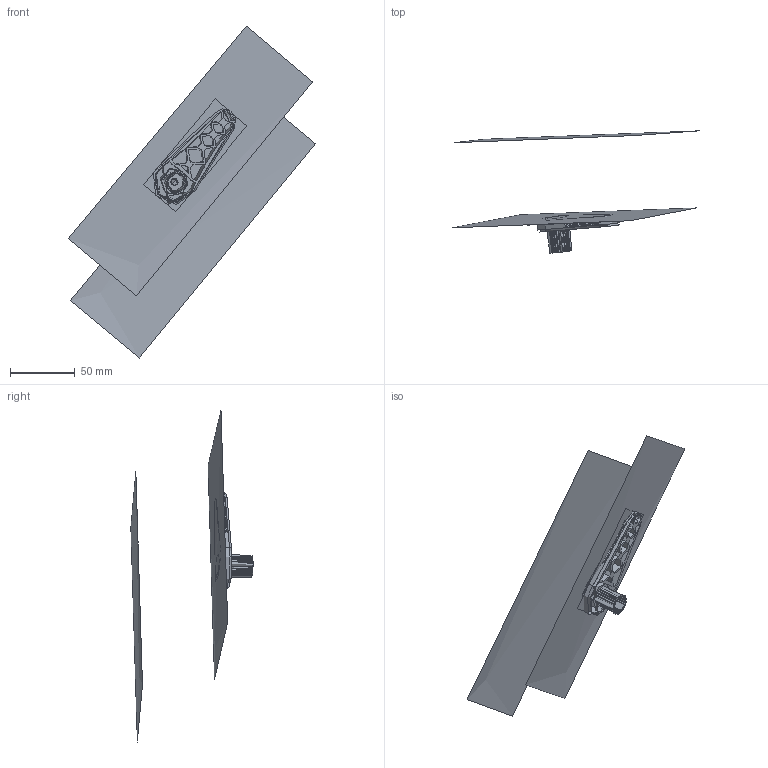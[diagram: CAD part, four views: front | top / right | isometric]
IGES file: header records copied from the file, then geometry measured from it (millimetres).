
Start section: START RECORD GO HERE
Global section: file name: M3A30206-5SF HANDLE OPTION 2; native system: IBM CATIA IGES - CATIA SOLUTIONS V4RELEASE 2.4 REFRESH 02; preprocessor: CATIA SOLUTIONS V4RELEASE 2.4 REFRESH 02; organization: DASSAULT SYSTEMES; date: 030210.122628; units: millimetre
Bounding box: 191.42 x 94.54 x 256.75 mm (x, y, z)
Topology: 0 solids, 0 shells, 381 faces, 5444 edges, 7322 vertices
Faces by surface type: extrusion 314, bspline 52, revolution 13, plane 2
